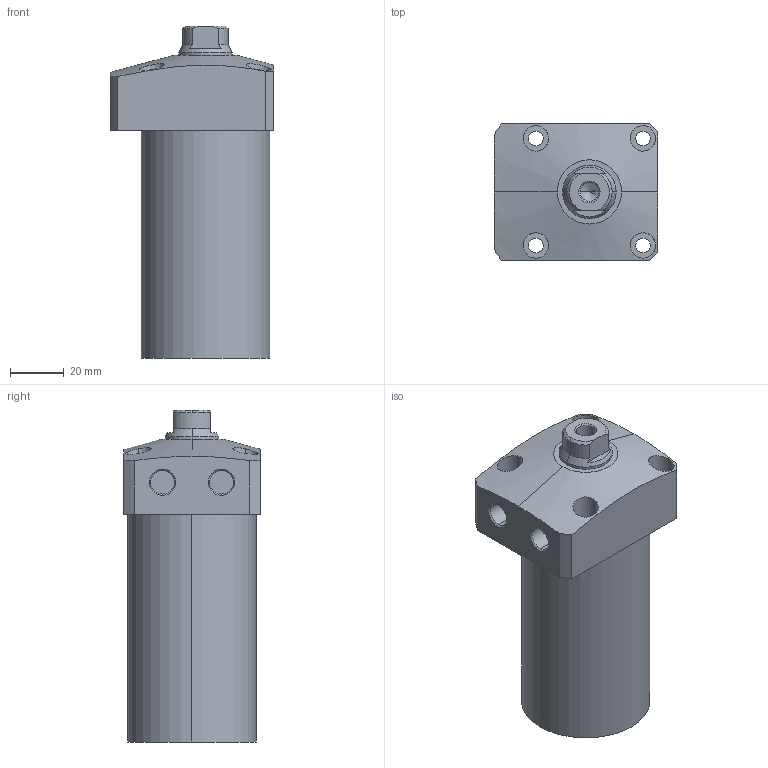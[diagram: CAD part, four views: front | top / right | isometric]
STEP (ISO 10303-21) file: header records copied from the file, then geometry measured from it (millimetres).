
FILE_DESCRIPTION (( 'STEP AP203' ), '1' );
FILE_NAME ('CLL-0480-CA-75.STEP', '2017-05-09T02:32:41', ( '' ), ( '' ), 'SwSTEP 2.0', 'SolidWorks 2015', '' );
FILE_SCHEMA (( 'CONFIG_CONTROL_DESIGN' ));
Length unit declared in the file: millimetre
Products named in the file (1): CLL-0480-CA-75
Bounding box: 61 x 51 x 124 mm (x, y, z)
Volume: 228417.1 mm3; surface area: 27382.5 mm2
Topology: 1 solids, 1 shells, 72 faces, 169 edges, 108 vertices
Faces by surface type: cylinder 35, plane 22, cone 15
Entity records: 2479 total; most frequent: CARTESIAN_POINT 714, DIRECTION 366, ORIENTED_EDGE 334, EDGE_CURVE 167, AXIS2_PLACEMENT_3D 150, VERTEX_POINT 108, EDGE_LOOP 91, CIRCLE 77
